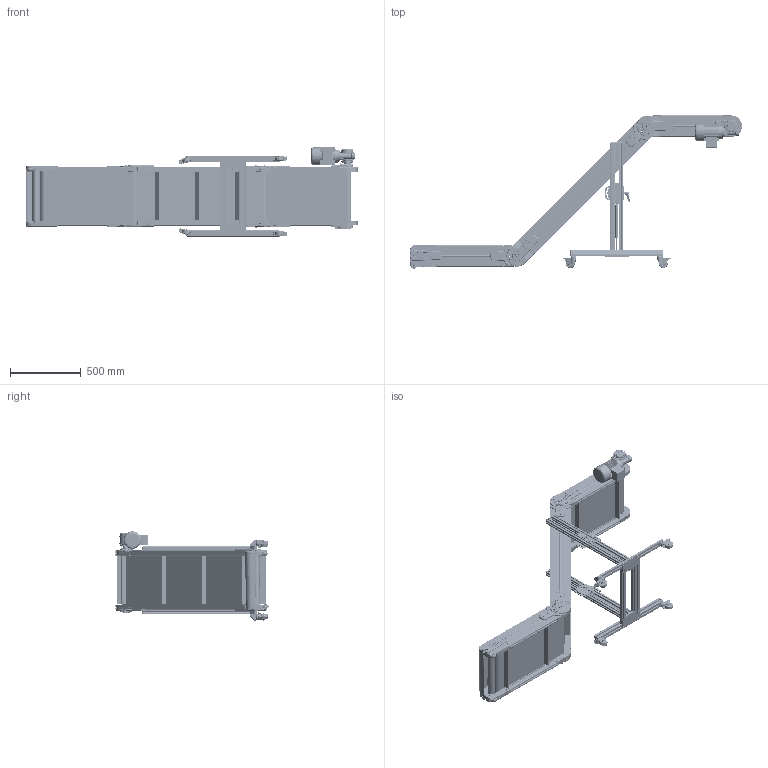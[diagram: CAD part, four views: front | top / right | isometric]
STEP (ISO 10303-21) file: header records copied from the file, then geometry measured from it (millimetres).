
FILE_DESCRIPTION (( 'STEP AP203' ), '1' );
FILE_NAME ('NASTRO_STAMPAGGIO_PLASTICA.step', '2026-04-28T07:11:38', ( 'Utente Windows' ), ( '' ), 'SwSTEP 2.0', 'SolidWorks 2024', '' );
FILE_SCHEMA (( 'CONFIG_CONTROL_DESIGN' ));
Length unit declared in the file: millimetre
Products named in the file (82): 084.831.039_Default<A macchina>; LAMIERA_T3; VITI TESTA BOMBATA ISO 730_1016UNI7380; 12UNI7435; 084.808.012; 084.831.KA.350_A; 084.831.015; 06KS; 084.302.016; 084.831.011; 084.831.005_L; 084.831.027; 0412TRSEA2; 013.100.045; 084.831.003; RONDELLE FASCIA LARGA UNI 6593_8.4x24 UNI 6593; CH04P_DX; CUSCINETTI A SFERE_6001-2RS; VITI TCEI UNI 5931_M5x12 UNI 5931; 084.831.006; TAPPETO_Z; RONDELLE FASCIA LARGA UNI 6593_6.4x24 UNI 6593; 084.831.016; 084.404.003; 084.301.000 VITI ALUSIC_084.301.003; 084.831.004; 361102 serie 36; 084.831.020.400; VITI TCEI UNI 5931_M5x40 UNI 5931; 084.831.KA_350_B; 084.802.071; 084.527.014 - CORPO; NASTRO_STAMPAGGIO_PLASTICA; 084.831.034; RONDELLE UNI 6592_10.5x21 UNI 6592; 084.831.017; 084.302.038_084.302.004; 084.802.061; 084.831.001_Default<A macchina>; 084.527.014 - STELO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
Assembly tree (206 placements, depth 4):
  NASTRO_STAMPAGGIO_PLASTICA
    TAPPETO_Z
    TELAIO_Z_Default<A macchina>
    084.831.KD.44.350_DX
      084.831.004  x2
      084.831.020.400
      084.831.017  x2
      084.802.071
      084.301.000 VITI ALUSIC_084.301.003
      084.802.034_084.802.034  x2
      084.802.061
      VITI TE UNI 5739_M6x16 UNI 5739  x5
      CHIAVETTE_A 6x6x60 UNI 6604-69
      RONDELLE FASCIA LARGA UNI 6593_6.4x24 UNI 6593
      084.808.012
      RONDELLE UNI 6592_8.4x17 UNI 6592
      084.802.062
      084.803.018
      0412TRSEA2  x10
      VITI TCEI UNI 5931_M5x12 UNI 5931  x4
      084.302.038_084.302.004  x2
      VITI TE UNI 5739_M8x35 UNI 5739
    084.831.KI.350
      084.831.001_Default<A macchina>  x2
      084.831.024  x2
      361102 serie 36  x2
      084.831.018.400
      VITI TE UNI 5739_M6x120 UNI5739  x2
      RONDELLE UNI 6592_6.4x12.5 UNI 6592  x2
      084.301.000 VITI ALUSIC_084.301.003  x2
      084.831.036
      084.831.040.350
      084.831.023  x4
      0412TRSEA2  x12
    084.831.KA_350_B  x2
      084.831.003
      084.302.016
      084.301.000 VITI ALUSIC_084.301.003
      084.831.021
      084.831.009
      084.831.014
      084.831.016
      084.831.011
      084.831.005
        084.831.005_L
        CUSCINETTI A SFERE_6001-2RS
      0412TRSEA2
      12UNI7435
    084.831.KA.350_A  x2
      084.831.002
      084.302.016
      084.831.034
      084.301.000 VITI ALUSIC_084.301.003
      RONDELLE FASCIA LARGA UNI 6593_8.4x24 UNI 6593
      084.831.005
        084.831.005_L
        CUSCINETTI A SFERE_6001-2RS
      084.831.021
      084.831.010_Default<A macchina>
      084.831.022
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Bounding box: 2348.21 x 1082.44 x 631 mm (x, y, z)
Volume: 22068724.3 mm3; surface area: 17187882 mm2
Topology: 362 solids, 371 shells, 33661 faces, 89258 edges, 57127 vertices
Faces by surface type: plane 15744, cylinder 9001, bspline 3777, cone 3312, torus 1419, sphere 408
Entity records: 546322 total; most frequent: CARTESIAN_POINT 168965, ORIENTED_EDGE 81348, DIRECTION 70861, EDGE_CURVE 40674, VERTEX_POINT 26251, AXIS2_PLACEMENT_3D 24035, LINE 22791, VECTOR 22791
